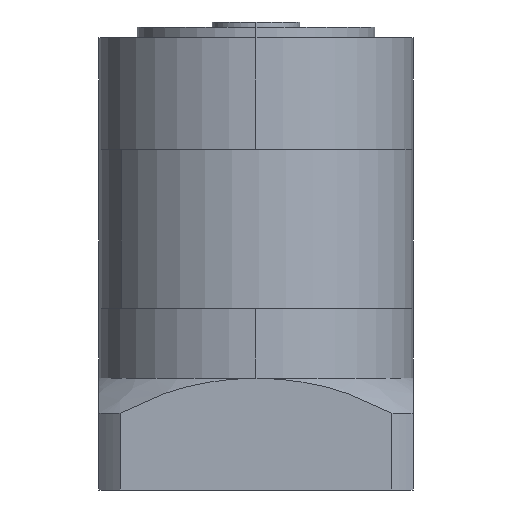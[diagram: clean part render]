
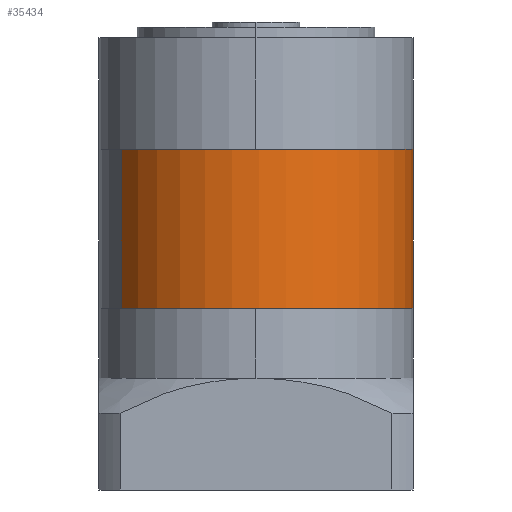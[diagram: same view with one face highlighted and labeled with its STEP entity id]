
A CAD part, left-side view. The second image highlights one B-rep face of the part: STEP entity #35434.
In plain terms, the highlighted cylindrical face has radius 45 mm (diameter 90 mm), a partial arc.
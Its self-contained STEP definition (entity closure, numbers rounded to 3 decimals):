
#191 = VERTEX_POINT ( 'NONE', #40397 ) ;
#2166 = DIRECTION ( 'NONE',  ( 0., 0., 1. ) ) ;
#2208 = EDGE_CURVE ( 'NONE', #12178, #191, #9010, .T. ) ;
#6614 = CARTESIAN_POINT ( 'NONE',  ( 0., -45., 22.75 ) ) ;
#8403 = LINE ( 'NONE', #42914, #45474 ) ;
#9010 = CIRCLE ( 'NONE', #22595, 45. ) ;
#9210 = CYLINDRICAL_SURFACE ( 'NONE', #34233, 45. ) ;
#9879 = CARTESIAN_POINT ( 'NONE',  ( 0., 45., -22.75 ) ) ;
#9983 = EDGE_CURVE ( 'NONE', #26145, #12178, #25411, .T. ) ;
#10135 = EDGE_CURVE ( 'NONE', #45873, #26145, #22034, .T. ) ;
#11580 = AXIS2_PLACEMENT_3D ( 'NONE', #17814, #43000, #21435 ) ;
#12178 = VERTEX_POINT ( 'NONE', #9879 ) ;
#13107 = CARTESIAN_POINT ( 'NONE',  ( 0., 0., -22.75 ) ) ;
#14302 = DIRECTION ( 'NONE',  ( 0., 0., -1. ) ) ;
#15260 = DIRECTION ( 'NONE',  ( 0., 1., 0. ) ) ;
#16858 = CARTESIAN_POINT ( 'NONE',  ( 0., 45., 22.75 ) ) ;
#17814 = CARTESIAN_POINT ( 'NONE',  ( 0., 0., 22.75 ) ) ;
#18858 = CARTESIAN_POINT ( 'NONE',  ( 0., 0., 22.75 ) ) ;
#19812 = FACE_OUTER_BOUND ( 'NONE', #42473, .T. ) ;
#21435 = DIRECTION ( 'NONE',  ( 0., 1., 0. ) ) ;
#22034 = CIRCLE ( 'NONE', #11580, 45. ) ;
#22595 = AXIS2_PLACEMENT_3D ( 'NONE', #13107, #2166, #34714 ) ;
#23469 = ORIENTED_EDGE ( 'NONE', *, *, #9983, .T. ) ;
#25411 = LINE ( 'NONE', #16858, #44572 ) ;
#26010 = ORIENTED_EDGE ( 'NONE', *, *, #40499, .F. ) ;
#26064 = DIRECTION ( 'NONE',  ( 0., 0., -1. ) ) ;
#26145 = VERTEX_POINT ( 'NONE', #30024 ) ;
#30024 = CARTESIAN_POINT ( 'NONE',  ( 0., 45., 22.75 ) ) ;
#34233 = AXIS2_PLACEMENT_3D ( 'NONE', #18858, #26064, #15260 ) ;
#34714 = DIRECTION ( 'NONE',  ( 0., 1., 0. ) ) ;
#35434 = ADVANCED_FACE ( 'NONE', ( #19812 ), #9210, .T. ) ;
#40397 = CARTESIAN_POINT ( 'NONE',  ( 0., -45., -22.75 ) ) ;
#40499 = EDGE_CURVE ( 'NONE', #45873, #191, #8403, .T. ) ;
#41052 = ORIENTED_EDGE ( 'NONE', *, *, #10135, .T. ) ;
#42026 = DIRECTION ( 'NONE',  ( 0., 0., -1. ) ) ;
#42473 = EDGE_LOOP ( 'NONE', ( #26010, #41052, #23469, #44034 ) ) ;
#42914 = CARTESIAN_POINT ( 'NONE',  ( 0., -45., 22.75 ) ) ;
#43000 = DIRECTION ( 'NONE',  ( 0., 0., -1. ) ) ;
#44034 = ORIENTED_EDGE ( 'NONE', *, *, #2208, .T. ) ;
#44572 = VECTOR ( 'NONE', #42026, 1000. ) ;
#45474 = VECTOR ( 'NONE', #14302, 1000. ) ;
#45873 = VERTEX_POINT ( 'NONE', #6614 ) ;
